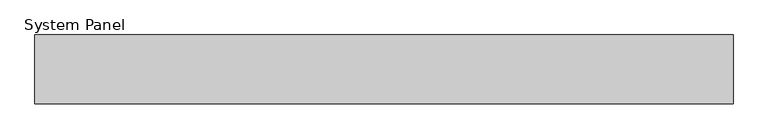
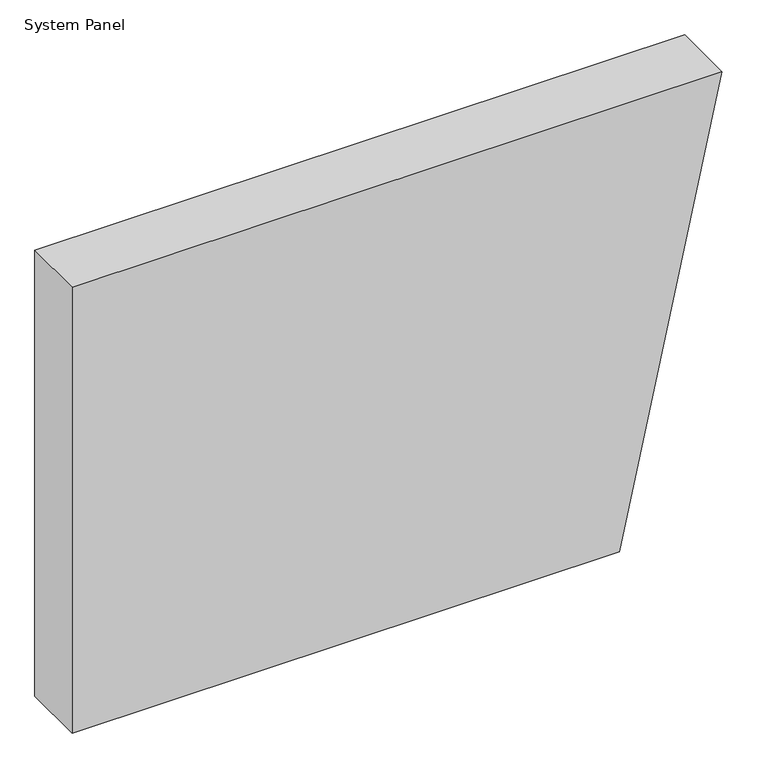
"""IFC4 building model written with IfcOpenShell, lengths in millimetres: plate geometry, System Panel : MetecnoPanel 150mm Horizontal - Plain Astro - PIR."""

from ifc_helpers import new_model, si_unit, frame, origin, place, context, project, spatial, polyline, outline, extrude, source, transform, mapped, element, save


def system_panel_6c2b58ab(model_context):
    return source(origin(), model_context, "Body", "SweptSolid", [
        extrude(outline(polyline([(0.0, -758.698535), (0.0, 519.5661783), (1100.0, 758.698535), (1100.0, -758.698535), (0.0, -758.698535)])), frame((0.0, -150.0, 0.0), z_axis=(0.0, 1.0, 0.0), x_axis=(0.0, 0.0, 1.0)), (0.0, 0.0, 1.0), 150.0),
    ])


if __name__ == "__main__":
    model = new_model("IFC4")
    model_context = context("Model", 3, world=origin())
    ifc_project = project(units=[si_unit("LENGTHUNIT", "METRE", prefix="MILLI")], contexts=[model_context])
    site = spatial("IfcSite", under=ifc_project)
    building = spatial("IfcBuilding", under=site)
    placement = place(None, origin())
    system_panel_shape = system_panel_6c2b58ab(model_context)
    element("IfcPlate", 1, ObjectType="System Panel : MetecnoPanel 150mm Horizontal - Plain Astro - PIR", at=placement, inside=building, context=model_context, shape_type="MappedRepresentation", body=[
        mapped(system_panel_shape, transform((0.0, 0.0, 0.0), x_axis=(1.0, 0.0, 0.0), y_axis=(0.0, 1.0, 0.0), z_axis=(0.0, 0.0, 1.0))),
    ])
    save(model, "model.ifc")
